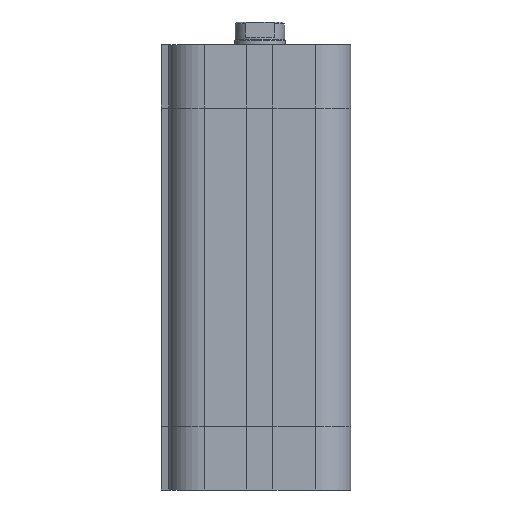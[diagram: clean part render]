
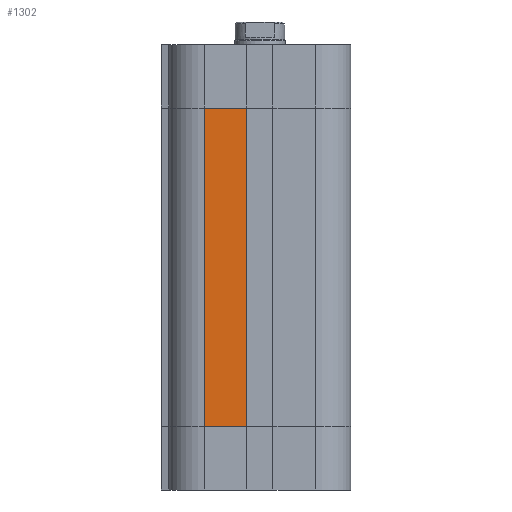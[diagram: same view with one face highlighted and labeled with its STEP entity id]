
A CAD part, left-side view. The second image highlights one B-rep face of the part: STEP entity #1302.
In plain terms, the highlighted planar face has unit normal (-1, 0, 0).
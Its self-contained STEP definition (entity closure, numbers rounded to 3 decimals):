
#1213=CARTESIAN_POINT('',(-18.,11.0,12.5));
#1214=VERTEX_POINT('',#1213);
#1222=CARTESIAN_POINT('',(-18.,11.0,75.5));
#1223=VERTEX_POINT('',#1222);
#1224=CARTESIAN_POINT('',(-18.,11.0,12.5));
#1225=DIRECTION('',(0.0,0.0,1.0));
#1226=VECTOR('',#1225,63.0);
#1227=LINE('',#1224,#1226);
#1228=EDGE_CURVE('',#1214,#1223,#1227,.T.);
#1272=CARTESIAN_POINT('',(-18.0,2.6,0.0));
#1273=DIRECTION('',(-1.0,0.0,0.0));
#1274=DIRECTION('',(0.0,0.0,1.0));
#1275=AXIS2_PLACEMENT_3D('',#1272,#1273,#1274);
#1276=PLANE('',#1275);
#1277=CARTESIAN_POINT('',(-18.0,2.6,12.5));
#1278=VERTEX_POINT('',#1277);
#1279=CARTESIAN_POINT('',(-18.,11.0,12.5));
#1280=DIRECTION('',(0.0,-1.0,0.0));
#1281=VECTOR('',#1280,8.4);
#1282=LINE('',#1279,#1281);
#1283=EDGE_CURVE('',#1214,#1278,#1282,.T.);
#1284=ORIENTED_EDGE('',*,*,#1283,.T.);
#1285=CARTESIAN_POINT('',(-18.0,2.6,75.5));
#1286=VERTEX_POINT('',#1285);
#1287=CARTESIAN_POINT('',(-18.0,2.6,12.5));
#1288=DIRECTION('',(0.0,0.0,1.0));
#1289=VECTOR('',#1288,63.0);
#1290=LINE('',#1287,#1289);
#1291=EDGE_CURVE('',#1278,#1286,#1290,.T.);
#1292=ORIENTED_EDGE('',*,*,#1291,.T.);
#1293=CARTESIAN_POINT('',(-18.,11.0,75.5));
#1294=DIRECTION('',(0.0,-1.0,0.0));
#1295=VECTOR('',#1294,8.4);
#1296=LINE('',#1293,#1295);
#1297=EDGE_CURVE('',#1223,#1286,#1296,.T.);
#1298=ORIENTED_EDGE('',*,*,#1297,.F.);
#1299=ORIENTED_EDGE('',*,*,#1228,.F.);
#1300=EDGE_LOOP('',(#1284,#1292,#1298,#1299));
#1301=FACE_OUTER_BOUND('',#1300,.T.);
#1302=ADVANCED_FACE('',(#1301),#1276,.T.);
